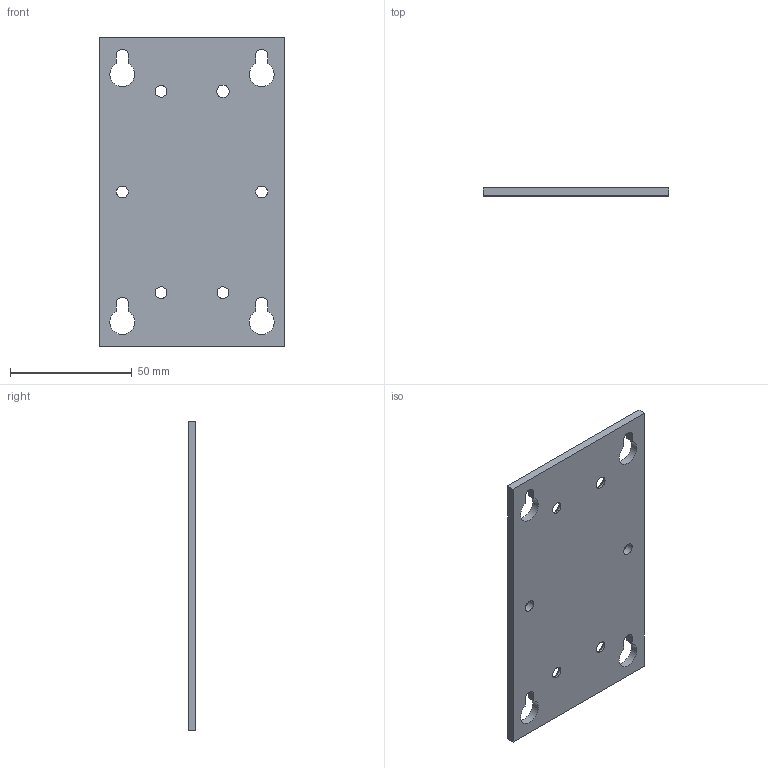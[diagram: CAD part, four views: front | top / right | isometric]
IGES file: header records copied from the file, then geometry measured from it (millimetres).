
Start section:  PTC IGES file: cu_cfp_panel_mount_hor.igs
Global section: file name: cu_cfp_panel_mount_hor.igs; native system: Pro/ENGINEER by Parametric Technology Corporation; preprocessor: 2006300; author: chrisj; organization: Unknown; date: 20070716.142653; units: inch
Bounding box: 76.2 x 3.17 x 127 mm (x, y, z)
Surface area: 20337.9 mm2 (no closed solid volume)
Topology: 0 solids, 0 shells, 42 faces, 224 edges, 224 vertices
Faces by surface type: revolution 28, bspline 14
